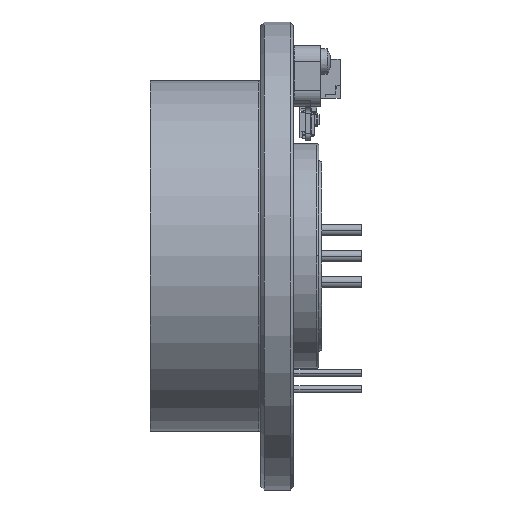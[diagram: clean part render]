
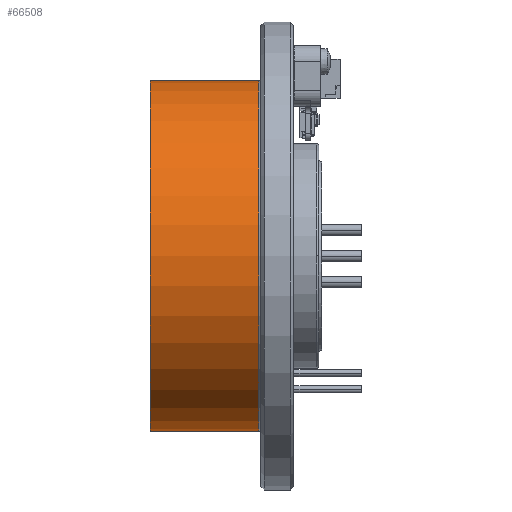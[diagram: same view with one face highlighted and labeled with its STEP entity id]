
A CAD part, top view. The second image highlights one B-rep face of the part: STEP entity #66508.
In plain terms, the highlighted cylindrical face has radius 27 mm (diameter 54 mm), a partial arc.
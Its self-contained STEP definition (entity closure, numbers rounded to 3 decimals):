
#5679=CARTESIAN_POINT('',(-5.3,0.,0.));
#5680=DIRECTION('',(-1.,0.,0.));
#5681=DIRECTION('',(0.,-1.,0.));
#5682=AXIS2_PLACEMENT_3D('',#5679,#5680,#5681);
#5687=CARTESIAN_POINT('',(-22.,0.,0.));
#5688=DIRECTION('',(1.,0.,0.));
#5689=DIRECTION('',(0.,1.,0.));
#5690=AXIS2_PLACEMENT_3D('',#5687,#5688,#5689);
#5703=DIRECTION('',(1.,0.,0.));
#5704=VECTOR('',#5703,16.7);
#5705=CARTESIAN_POINT('',(-22.,27.,0.));
#5706=LINE('',#5705,#5704);
#5718=DIRECTION('',(1.,0.,0.));
#5719=VECTOR('',#5718,16.7);
#5720=CARTESIAN_POINT('',(-22.,-27.,0.));
#5721=LINE('',#5720,#5719);
#56678=CARTESIAN_POINT('',(-22.,27.,0.));
#56679=CARTESIAN_POINT('',(-22.,-27.,0.));
#56680=VERTEX_POINT('',#56678);
#56681=VERTEX_POINT('',#56679);
#56694=CARTESIAN_POINT('',(-5.3,27.,0.));
#56695=CARTESIAN_POINT('',(-5.3,-27.,0.));
#56696=VERTEX_POINT('',#56694);
#56697=VERTEX_POINT('',#56695);
#66494=CARTESIAN_POINT('',(-23.1,0.,0.));
#66495=DIRECTION('',(1.,0.,0.));
#66496=DIRECTION('',(0.,1.,0.));
#66497=AXIS2_PLACEMENT_3D('',#66494,#66495,#66496);
#66498=CYLINDRICAL_SURFACE('',#66497,27.);
#66499=ORIENTED_EDGE('',*,*,#66488,.F.);
#66501=ORIENTED_EDGE('',*,*,#66500,.F.);
#66503=ORIENTED_EDGE('',*,*,#66502,.F.);
#66505=ORIENTED_EDGE('',*,*,#66504,.T.);
#66506=EDGE_LOOP('',(#66499,#66501,#66503,#66505));
#66507=FACE_OUTER_BOUND('',#66506,.F.);
#66508=ADVANCED_FACE('',(#66507),#66498,.T.);
#5683=CIRCLE('',#5682,27.);
#5691=CIRCLE('',#5690,27.);
#66488=EDGE_CURVE('',#56697,#56696,#5683,.T.);
#66500=EDGE_CURVE('',#56681,#56697,#5721,.T.);
#66502=EDGE_CURVE('',#56680,#56681,#5691,.T.);
#66504=EDGE_CURVE('',#56680,#56696,#5706,.T.);
